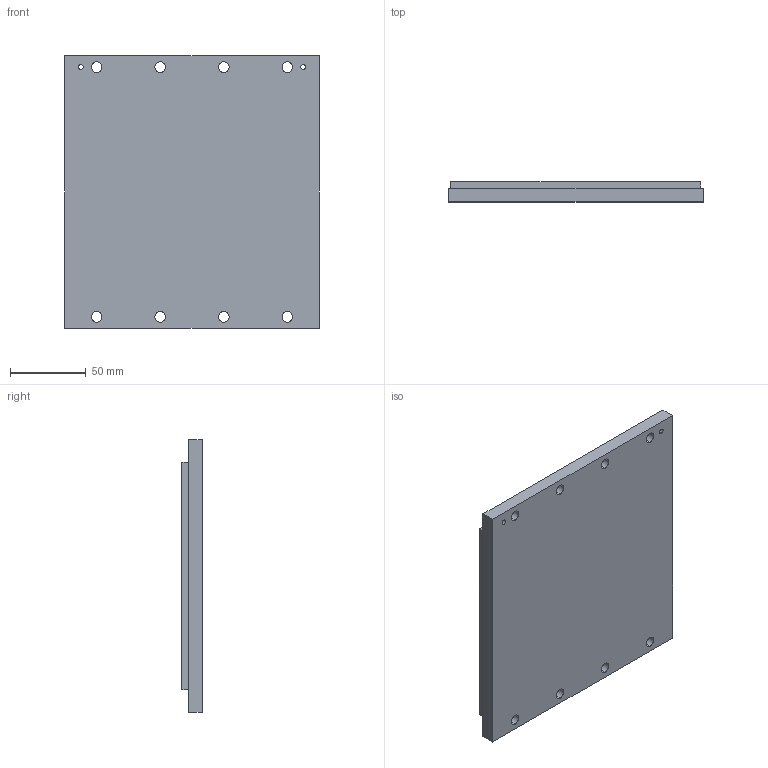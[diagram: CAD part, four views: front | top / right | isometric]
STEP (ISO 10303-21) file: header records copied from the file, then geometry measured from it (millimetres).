
FILE_DESCRIPTION (( 'STEP AP214' ), '1' );
FILE_NAME ('PIXM350-180-TL168-NC.step', '2021-11-01T10:02:59', ( '' ), ( '' ), 'SwSTEP 2.0', 'SolidWorks 2020', '' );
FILE_SCHEMA (( 'AUTOMOTIVE_DESIGN' ));
Length unit declared in the file: millimetre
Products named in the file (1): PIXM350-180-TL168-NC
Bounding box: 168 x 13.5 x 180 mm (x, y, z)
Volume: 379252.4 mm3; surface area: 120504.7 mm2
Topology: 2 solids, 2 shells, 67 faces, 162 edges, 108 vertices
Faces by surface type: cylinder 36, plane 31
Entity records: 2808 total; most frequent: DIRECTION 370, CARTESIAN_POINT 338, ORIENTED_EDGE 324, EDGE_CURVE 162, AXIS2_PLACEMENT_3D 140, VERTEX_POINT 108, EDGE_LOOP 96, VECTOR 90
